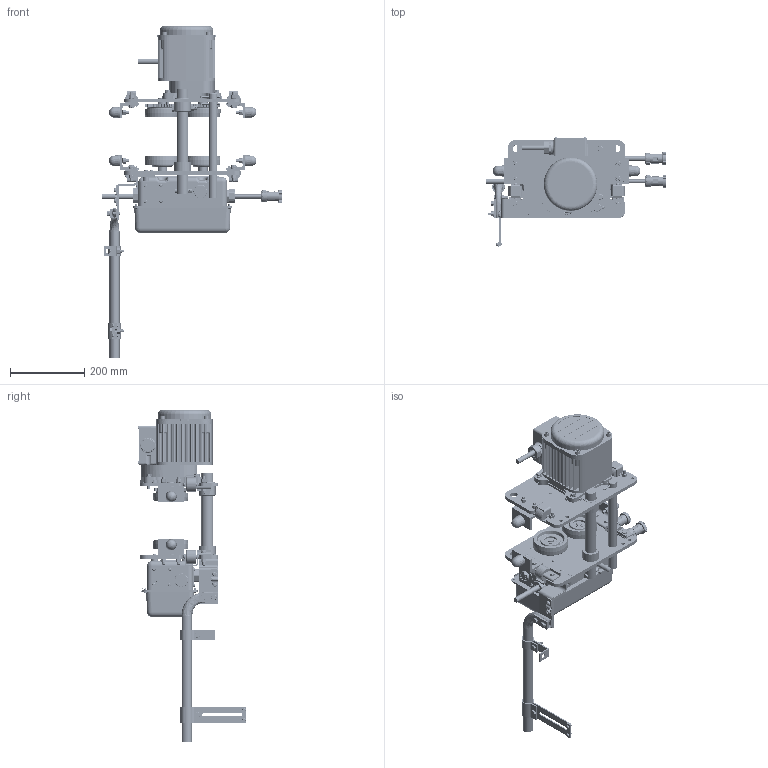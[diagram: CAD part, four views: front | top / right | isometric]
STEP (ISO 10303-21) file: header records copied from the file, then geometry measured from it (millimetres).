
FILE_DESCRIPTION (( 'STEP AP214' ), '1' );
FILE_NAME ('MR2010S.STEP', '2026-08-10T13:56:24', ( '' ), ( '' ), 'SwSTEP 2.0', 'SolidWorks 2026', '' );
FILE_SCHEMA (( 'AUTOMOTIVE_DESIGN' ));
Length unit declared in the file: inch
Products named in the file (89): MR1DS9203; ES558003; MR1DS1211; 6077801; MR1DS9324; M6FE010S9113; MR1DS1211_Reversed; MR2DI1811; ECP6916AA; 9009432_9009432; E6L614010S; 16-6P (MR2); MR1DS9631; MR2SHM10S9A7; MS527010; MSF115010_MSF115010; 9012712_9012712; MS551010; MR1DS93112; E6F151003; ECP2304AD; MR1DS9493; MS1102010; MR1DS5201; MR1DS1491; MR1DS9491; 9093424_9093424; MR1DS9411; M6FE010S9114; MS554010; ECP2108AC; MS1101010; KITO-WASHER; MR1DS1481; 6302Z BEARING; ECP6912AA; T6G156020; MR1DS9201; MR1DS9421; MR1DS5202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
Assembly tree (220 placements, depth 5):
  MR2010S
    MR1DS5201
      MR1DS9201
      MR1DS9203  x2
      M6FE010S9113
    MR1DS5202
      MR1DS9202
      MR1DS9203  x2
      M6FE010S9114
    MSF115010_MSF115010
    MR1DS9634  x4
    9093330_9093330  x16
    9012711_9012711  x20
    9093424_9093424  x16
    MR1DS9631  x4
    MS006010  x4
    MR1DS1211_Reversed  x2
      MR1DS1211
      MR1DS9218
    MR1DS1211  x2
      MR1DS1211
      MR1DS9218
    MS1101010  x2
      M6SE010S9101
      6302Z BEARING
      9047242_9047242
    MS1102010  x2
      M6SE010S9102
      6302Z BEARING
      9047242_9047242
    MR1DS9131_MR1DS9131
    9009446_9009446  x2
    MS161010
    T6G156020
    9009432_9009432
    9009414-5_9009414-5
    9047115_9047115  x4
    MS104010  x4
    6077801
      MR1DS93112
      MR1DS9324
      MR1DS9325
      MR1DS1301
      90912134  x4
      MS554010  x4
    9012513  x4
    MR1DS9248
    70130XX_7013001
      MR1DS9411
      MR1DS9401_1 - 8 TON & 10 L TON
      MR1DS9421
      MS554010  x12
      MR2DS2811
        ECP5924AH
        MS527010
        MR2DI1811
        ES558003  x4
      MS517010  x4
      MS551010  x4
      MR2DS1768
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Bounding box: 483.05 x 292.59 x 891.99 mm (x, y, z)
Volume: 5588275.2 mm3; surface area: 1871493.5 mm2
Topology: 248 solids, 264 shells, 9668 faces, 25395 edges, 16559 vertices
Faces by surface type: plane 4633, cylinder 2757, cone 1366, torus 448, bspline 440, sphere 24
Entity records: 191776 total; most frequent: CARTESIAN_POINT 69650, ORIENTED_EDGE 25162, DIRECTION 23695, EDGE_CURVE 12583, AXIS2_PLACEMENT_3D 8640, VERTEX_POINT 8385, LINE 6415, VECTOR 6415
